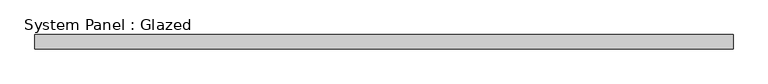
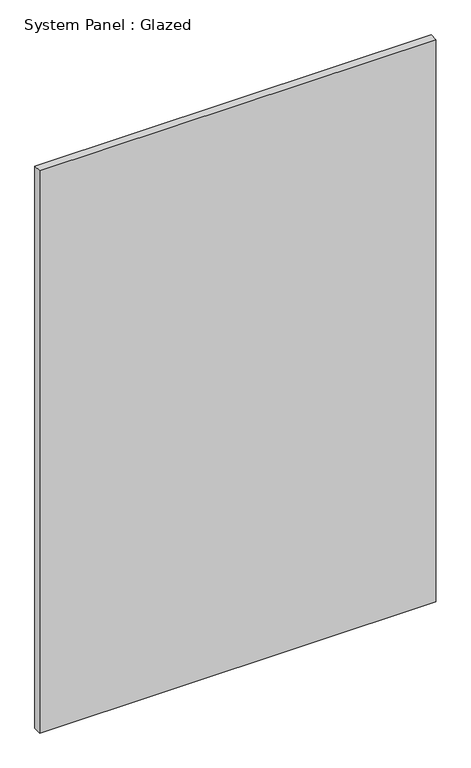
"""IFC4 building model written with IfcOpenShell, lengths in millimetres: plate geometry, System Panel : Glazed."""

from ifc_helpers import new_model, si_unit, origin, origin_with_axes, place, context, project, spatial, polyline, outline, extrude, source, transform, mapped, element, save


def system_panel_glazed_1cc95e9d(model_context):
    return source(origin(), model_context, "Body", "SweptSolid", [
        extrude(outline(polyline([(618.17875, 24.5), (-618.17875, 24.5), (-618.17875, 49.5), (618.17875, 49.5), (618.17875, 24.5)])), origin_with_axes(), (0.0, 0.0, 1.0), 1854.4),
    ])


if __name__ == "__main__":
    model = new_model("IFC4")
    model_context = context("Model", 3, world=origin())
    ifc_project = project(units=[si_unit("LENGTHUNIT", "METRE", prefix="MILLI")], contexts=[model_context])
    site = spatial("IfcSite", under=ifc_project)
    building = spatial("IfcBuilding", under=site)
    placement = place(None, origin())
    system_panel_glazed_shape = system_panel_glazed_1cc95e9d(model_context)
    element("IfcPlate", 1, ObjectType="System Panel : Glazed", at=placement, inside=building, context=model_context, shape_type="MappedRepresentation", body=[
        mapped(system_panel_glazed_shape, transform((0.0, 0.0, 0.0), x_axis=(1.0, 0.0, 0.0), y_axis=(0.0, 1.0, 0.0), z_axis=(0.0, 0.0, 1.0))),
    ])
    save(model, "model.ifc")
